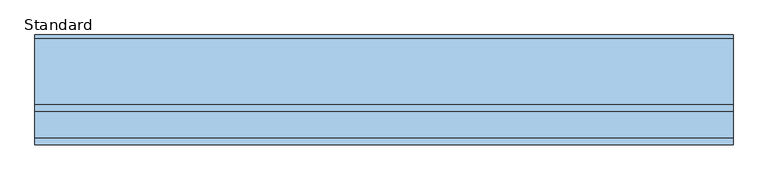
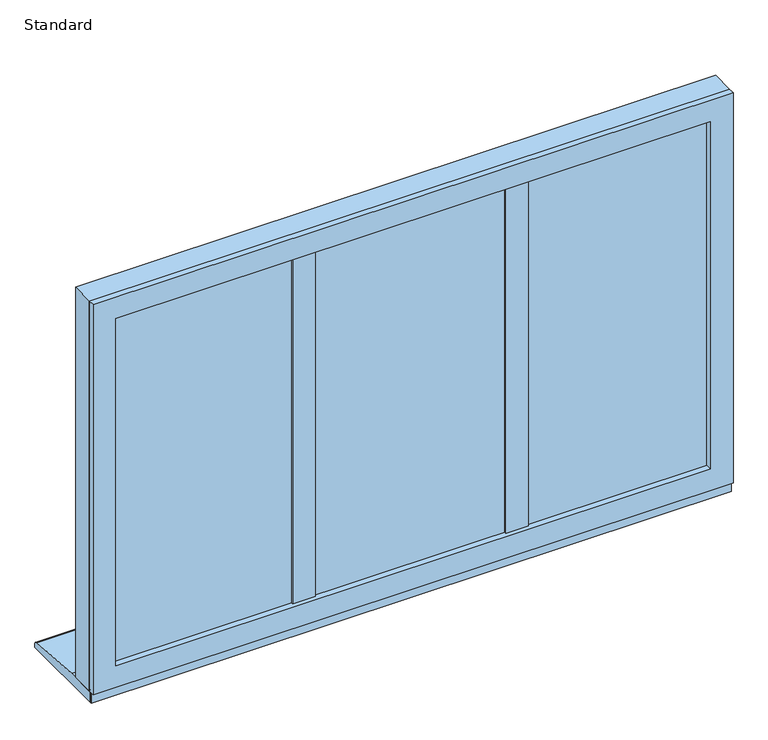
"""IFC4 building model written with IfcOpenShell, lengths in millimetres: window geometry, SMARTS_Alitherm600 : Standard."""

from ifc_helpers import new_model, si_unit, point, frame, frame_2d, origin, place, context, project, spatial, polyline, circle_curve, trimmed, segment, composite_curve, outline, extrude, faceted_brep, source, transform, mapped, element, save


def standard_205d9bfb(model_context):
    return source(origin(), model_context, "Body", "SolidModel", [
        extrude(outline(polyline([(-256.0666667, 102.8298432), (-237.2666667, 102.8298432), (-237.2666667, 47.2458572), (-256.0666667, 47.2458572), (-256.0666667, 102.8298432)])), frame((0.0, 0.0, 670.8979117), z_axis=(0.0, 0.0, 1.0), x_axis=(1.0, 0.0, 0.0)), (0.0, 0.0, 1.0), 883.2041766),
        extrude(outline(polyline([(-272.568755, 47.2458572), (-220.7645784, 47.2458572), (-220.7645784, 43.2798432), (-272.568755, 43.2798432), (-272.568755, 47.2458572)])), frame((0.0, 0.0, 687.4), z_axis=(0.0, 0.0, 1.0), x_axis=(1.0, 0.0, 0.0)), (0.0, 0.0, 1.0), 850.2),
        extrude(outline(polyline([(237.2666667, 102.8298432), (256.0666667, 102.8298432), (256.0666667, 47.2458572), (237.2666667, 47.2458572), (237.2666667, 102.8298432)])), frame((0.0, 0.0, 670.8979117), z_axis=(0.0, 0.0, 1.0), x_axis=(1.0, 0.0, 0.0)), (0.0, 0.0, 1.0), 883.2041766),
        extrude(outline(polyline([(220.7645784, 47.2458572), (272.568755, 47.2458572), (272.568755, 43.2798432), (220.7645784, 43.2798432), (220.7645784, 47.2458572)])), frame((0.0, 0.0, 687.4), z_axis=(0.0, 0.0, 1.0), x_axis=(1.0, 0.0, 0.0)), (0.0, 0.0, 1.0), 850.2),
        extrude(outline(polyline([(-702.6, 77.7798432), (-257.6666667, 77.7798432), (-257.6666667, 73.7798432), (-702.6, 73.7798432), (-702.6, 77.7798432)])), frame((0.0, 0.0, 672.4), z_axis=(0.0, 0.0, 1.0), x_axis=(1.0, 0.0, 0.0)), (0.0, 0.0, 1.0), 880.2),
        extrude(outline(polyline([(-702.6, 57.7798432), (-257.6666667, 57.7798432), (-257.6666667, 53.7798432), (-702.6, 53.7798432), (-702.6, 57.7798432)])), frame((0.0, 0.0, 672.4), z_axis=(0.0, 0.0, 1.0), x_axis=(1.0, 0.0, 0.0)), (0.0, 0.0, 1.0), 880.2),
        extrude(outline(polyline([(1552.6, -702.6), (672.4, -702.6), (672.4, -257.6666667), (1552.6, -257.6666667), (1552.6, -702.6)]), holes=[polyline([(1542.6, -267.6666667), (682.4, -267.6666667), (682.4, -692.6), (1542.6, -692.6), (1542.6, -267.6666667)])]), frame((0.0, 57.7798432, 0.0), z_axis=(0.0, 1.0, 0.0), x_axis=(0.0, 0.0, 1.0)), (0.0, 0.0, 1.0), 16.0),
        faceted_brep([(-699.4160653, 102.7798432, 1549.4160653), (-687.2339746, 81.6798432, 1537.2339746), (-687.2339746, 81.6798432, 687.7660254), (-699.4160653, 102.7798432, 675.5839347), (-273.0326921, 81.6798432, 687.7660254), (-260.8506014, 102.7798432, 675.5839347), (-273.0326921, 81.6798432, 1537.2339746), (-260.8506014, 102.7798432, 1549.4160653), (-256.1666667, 81.6798432, 1554.1), (-256.1666667, 102.7798432, 1554.1), (-704.1, 102.7798432, 1554.1), (-704.1, 81.6798432, 1554.1), (-704.1, 102.7798432, 670.9), (-704.1, 81.6798432, 670.9), (-256.1666667, 102.7798432, 670.9), (-256.1666667, 81.6798432, 670.9)], [[[0, 1, 2, 3]], [[3, 2, 4, 5]], [[5, 4, 6, 7]], [[7, 6, 1, 0]], [[8, 9, 10, 11]], [[11, 10, 12, 13]], [[13, 12, 14, 15]], [[9, 14, 12, 10], [0, 3, 5, 7]], [[15, 14, 9, 8]], [[11, 13, 15, 8], [6, 4, 2, 1]]]),
        extrude(outline(polyline([(-235.6666667, 77.7798432), (235.6666667, 77.7798432), (235.6666667, 73.7798432), (-235.6666667, 73.7798432), (-235.6666667, 77.7798432)])), frame((0.0, 0.0, 672.4), z_axis=(0.0, 0.0, 1.0), x_axis=(1.0, 0.0, 0.0)), (0.0, 0.0, 1.0), 880.2),
        extrude(outline(polyline([(-235.6666667, 57.7798432), (235.6666667, 57.7798432), (235.6666667, 53.7798432), (-235.6666667, 53.7798432), (-235.6666667, 57.7798432)])), frame((0.0, 0.0, 672.4), z_axis=(0.0, 0.0, 1.0), x_axis=(1.0, 0.0, 0.0)), (0.0, 0.0, 1.0), 880.2),
        extrude(outline(polyline([(1552.6, -235.6666667), (672.4, -235.6666667), (672.4, 235.6666667), (1552.6, 235.6666667), (1552.6, -235.6666667)]), holes=[polyline([(1542.6, 225.6666667), (682.4, 225.6666667), (682.4, -225.6666667), (1542.6, -225.6666667), (1542.6, 225.6666667)])]), frame((0.0, 57.7798432, 0.0), z_axis=(0.0, 1.0, 0.0), x_axis=(0.0, 0.0, 1.0)), (0.0, 0.0, 1.0), 16.0),
        faceted_brep([(-232.4827319, 102.7798432, 1549.4160653), (-220.3006413, 81.6798432, 1537.2339746), (-220.3006413, 81.6798432, 687.7660254), (-232.4827319, 102.7798432, 675.5839347), (220.3006413, 81.6798432, 687.7660254), (232.4827319, 102.7798432, 675.5839347), (220.3006413, 81.6798432, 1537.2339746), (232.4827319, 102.7798432, 1549.4160653), (237.1666667, 81.6798432, 1554.1), (237.1666667, 102.7798432, 1554.1), (-237.1666667, 102.7798432, 1554.1), (-237.1666667, 81.6798432, 1554.1), (-237.1666667, 102.7798432, 670.9), (-237.1666667, 81.6798432, 670.9), (237.1666667, 102.7798432, 670.9), (237.1666667, 81.6798432, 670.9)], [[[0, 1, 2, 3]], [[3, 2, 4, 5]], [[5, 4, 6, 7]], [[7, 6, 1, 0]], [[8, 9, 10, 11]], [[11, 10, 12, 13]], [[13, 12, 14, 15]], [[9, 14, 12, 10], [0, 3, 5, 7]], [[15, 14, 9, 8]], [[11, 13, 15, 8], [6, 4, 2, 1]]]),
        extrude(outline(polyline([(1590.0, 740.0), (1590.0, -740.0), (635.0, -740.0), (635.0, 740.0), (1590.0, 740.0)]), holes=[polyline([(670.85, 704.15), (670.85, -704.15), (1554.15, -704.15), (1554.15, 704.15), (670.85, 704.15)])]), frame((0.0, 47.2798427, 0.0), z_axis=(0.0, 1.0, 0.0), x_axis=(0.0, 0.0, 1.0)), (0.0, 0.0, 1.0), 55.5500006),
        extrude(outline(polyline([(1590.0, 740.0), (1590.0, -740.0), (635.0, -740.0), (635.0, 740.0), (1590.0, 740.0)]), holes=[polyline([(687.35, 687.65), (687.35, -687.65), (1537.65, -687.65), (1537.65, 687.65), (687.35, 687.65)])]), frame((0.0, 32.8298432, 0.0), z_axis=(0.0, 1.0, 0.0), x_axis=(0.0, 0.0, 1.0)), (0.0, 0.0, 1.0), 14.4499994),
        extrude(outline(polyline([(257.6666667, 77.7798432), (702.6, 77.7798432), (702.6, 73.7798432), (257.6666667, 73.7798432), (257.6666667, 77.7798432)])), frame((0.0, 0.0, 672.4), z_axis=(0.0, 0.0, 1.0), x_axis=(1.0, 0.0, 0.0)), (0.0, 0.0, 1.0), 880.2),
        extrude(outline(polyline([(257.6666667, 57.7798432), (702.6, 57.7798432), (702.6, 53.7798432), (257.6666667, 53.7798432), (257.6666667, 57.7798432)])), frame((0.0, 0.0, 672.4), z_axis=(0.0, 0.0, 1.0), x_axis=(1.0, 0.0, 0.0)), (0.0, 0.0, 1.0), 880.2),
        extrude(outline(polyline([(1552.6, 257.6666667), (672.4, 257.6666667), (672.4, 702.6), (1552.6, 702.6), (1552.6, 257.6666667)]), holes=[polyline([(1542.6, 692.6), (682.4, 692.6), (682.4, 267.6666667), (1542.6, 267.6666667), (1542.6, 692.6)])]), frame((0.0, 57.7798432, 0.0), z_axis=(0.0, 1.0, 0.0), x_axis=(0.0, 0.0, 1.0)), (0.0, 0.0, 1.0), 16.0),
        faceted_brep([(260.8506014, 102.7798432, 1549.4160653), (273.0326921, 81.6798432, 1537.2339746), (273.0326921, 81.6798432, 687.7660254), (260.8506014, 102.7798432, 675.5839347), (687.2339746, 81.6798432, 687.7660254), (699.4160653, 102.7798432, 675.5839347), (687.2339746, 81.6798432, 1537.2339746), (699.4160653, 102.7798432, 1549.4160653), (704.1, 81.6798432, 1554.1), (704.1, 102.7798432, 1554.1), (256.1666667, 102.7798432, 1554.1), (256.1666667, 81.6798432, 1554.1), (256.1666667, 102.7798432, 670.9), (256.1666667, 81.6798432, 670.9), (704.1, 102.7798432, 670.9), (704.1, 81.6798432, 670.9)], [[[0, 1, 2, 3]], [[3, 2, 4, 5]], [[5, 4, 6, 7]], [[7, 6, 1, 0]], [[8, 9, 10, 11]], [[11, 10, 12, 13]], [[13, 12, 14, 15]], [[9, 14, 12, 10], [0, 3, 5, 7]], [[15, 14, 9, 8]], [[11, 13, 15, 8], [6, 4, 2, 1]]]),
        extrude(outline(polyline([(740.0, 43.2798432), (740.0, 40.7798432), (-740.0, 40.7798432), (-740.0, 43.2798432), (740.0, 43.2798432)])), frame((0.0, 0.0, 610.0), z_axis=(0.0, 0.0, 1.0), x_axis=(1.0, 0.0, 0.0)), (0.0, 0.0, 1.0), 31.0),
        extrude(outline(composite_curve([segment(polyline([(265.7798432, 610.0), (43.2798432, 610.0), (43.2798432, 635.0), (118.7798432, 635.0), (258.4770891, 625.9276664)]), True, "CONTINUOUS"), segment(trimmed(circle_curve(frame_2d((257.7798432, 617.9581088)), 8.0), [point((258.4770891, 625.9276664))], [point((265.7798432, 617.9581088))], False, "CARTESIAN"), True, "CONTINUOUS"), segment(polyline([(265.7798432, 617.9581088), (265.7798432, 610.0)]), True, "CONTINUOUS")], self_intersect=False)), frame((-740.0, 0.0, 0.0), z_axis=(1.0, 0.0, 0.0), x_axis=(0.0, 1.0, 0.0)), (0.0, 0.0, 1.0), 1480.0),
    ])


if __name__ == "__main__":
    model = new_model("IFC4")
    model_context = context("Model", 3, world=origin())
    ifc_project = project(units=[si_unit("LENGTHUNIT", "METRE", prefix="MILLI")], contexts=[model_context])
    site = spatial("IfcSite", under=ifc_project)
    building = spatial("IfcBuilding", under=site)
    placement = place(None, origin())
    standard_shape = standard_205d9bfb(model_context)
    element("IfcWindow", 1, ObjectType="SMARTS_Alitherm600 : Standard", at=placement, inside=building, context=model_context, shape_type="MappedRepresentation", body=[
        mapped(standard_shape, transform((0.0, 0.0, 0.0), x_axis=(1.0, 0.0, 0.0), y_axis=(0.0, 1.0, 0.0), z_axis=(0.0, 0.0, 1.0))),
    ])
    save(model, "model.ifc")
